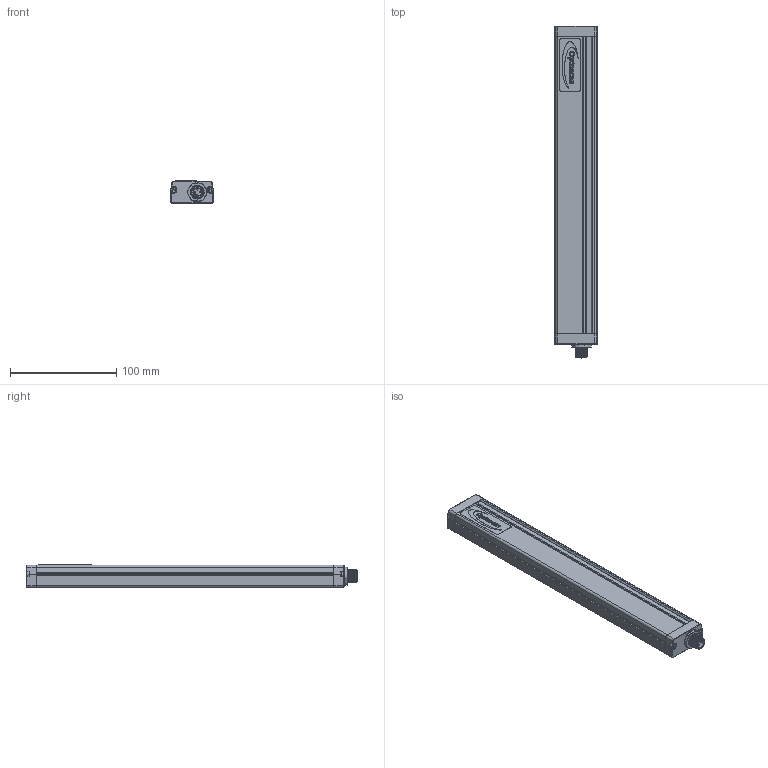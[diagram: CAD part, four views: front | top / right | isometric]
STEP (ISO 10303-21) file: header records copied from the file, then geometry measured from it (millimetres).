
FILE_DESCRIPTION(/* description */ (''),/* implementation_level */ '2;1');
FILE_NAME(/* name */ 'C:\Users\Andrea\SynologyDrive\Optoscan\Libreria Componenti\00 - Barriere\Barriera sorgente\Barriera RX\Argo_280_RX.stp',/* time_stamp */ '2022-06-30T15:46:52+02:00',/* author */ ('Andrea'),/* organization */ (''),/* preprocessor_version */ 'ST-DEVELOPER v18.1',/* originating_system */ 'Autodesk Inventor 2022',/* authorisation */ '');
FILE_SCHEMA (('AUTOMOTIVE_DESIGN { 1 0 10303 214 3 1 1 }'));
Length unit declared in the file: millimetre
Products named in the file (1): Argo_280_RX
Bounding box: 40.5 x 312.8 x 20.75 mm (x, y, z)
Volume: 65673.7 mm3; surface area: 83369.9 mm2
Topology: 1 solids, 2 shells, 753 faces, 2017 edges, 1278 vertices
Faces by surface type: plane 336, cylinder 216, bspline 115, torus 72, cone 8, sphere 6
Full cylindrical faces by diameter (mm): 1 x12, 1.2 x4, 2.459 x4, 2.5 x4, 3 x4, 3.5 x4, 5.5 x4, 8 x1, 10 x1, 10.5 x2, 11.75 x8, 12 x1, 12.3 x3, 14.5 x1, 16.7 x1, 17.5 x1
Entity records: 30151 total; most frequent: CARTESIAN_POINT 11037, ORIENTED_EDGE 4018, DIRECTION 3500, EDGE_CURVE 2009, VERTEX_POINT 1278, AXIS2_PLACEMENT_3D 1219, LINE 1062, VECTOR 1062
